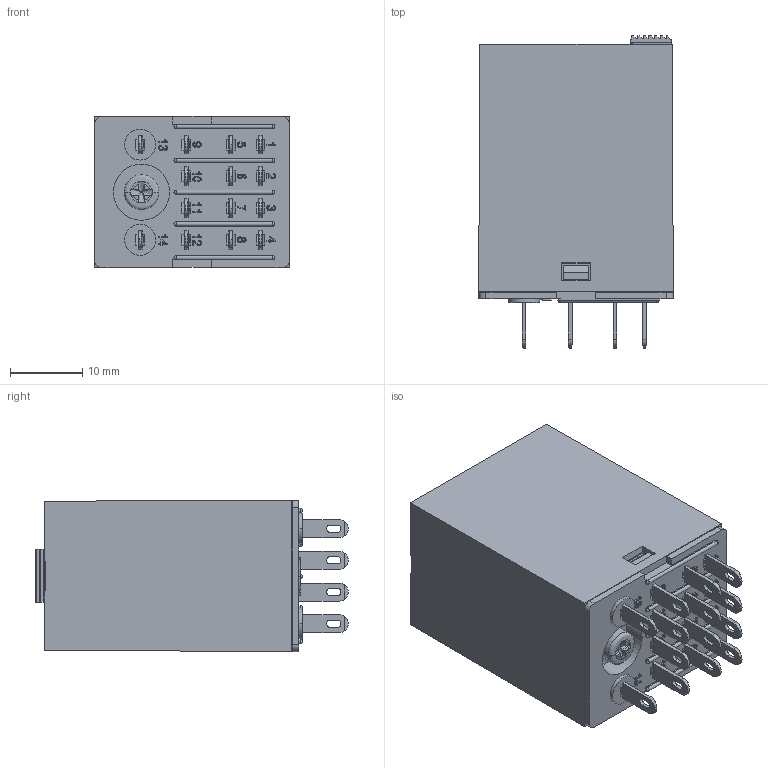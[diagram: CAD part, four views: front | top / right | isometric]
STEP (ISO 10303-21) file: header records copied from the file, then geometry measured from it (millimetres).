
FILE_DESCRIPTION (( 'STEP AP203' ), '1' );
FILE_NAME ('RKE4C 俋倛.STEP', '2023-01-14T05:56:45', ( '' ), ( '' ), 'SwSTEP 2.0', 'SolidWorks 2018', '' );
FILE_SCHEMA (( 'CONFIG_CONTROL_DESIGN' ));
Length unit declared in the file: millimetre
Products named in the file (1): RKE4C 俋倛
Bounding box: 27 x 43.35 x 21.05 mm (x, y, z)
Volume: 19725.2 mm3; surface area: 5941 mm2
Topology: 1 solids, 2 shells, 1108 faces, 3076 edges, 2016 vertices
Faces by surface type: plane 764, cylinder 196, bspline 130, sphere 10, cone 4, torus 4
Entity records: 42028 total; most frequent: CARTESIAN_POINT 14275, ORIENTED_EDGE 6112, DIRECTION 5096, EDGE_CURVE 3056, VECTOR 2308, LINE 2308, VERTEX_POINT 2006, AXIS2_PLACEMENT_3D 1394
